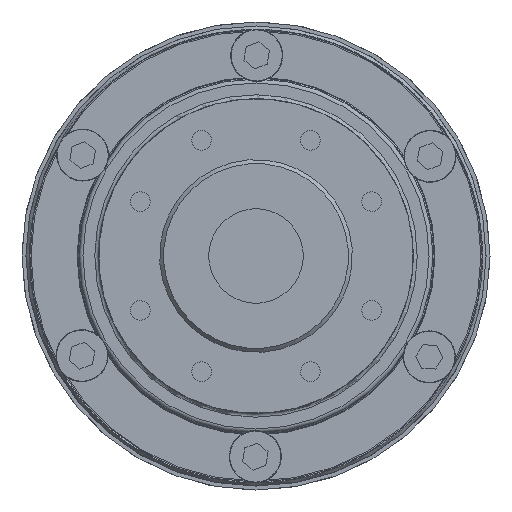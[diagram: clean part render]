
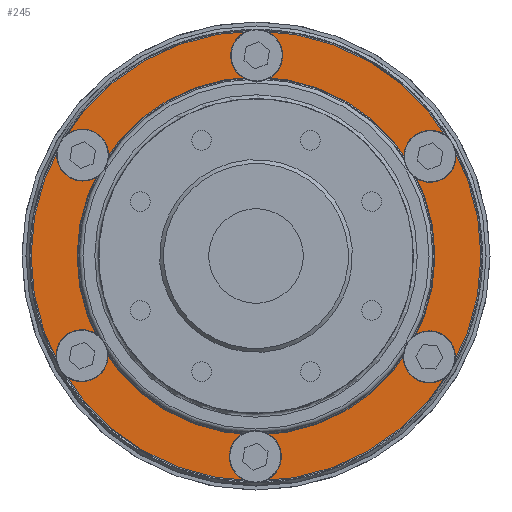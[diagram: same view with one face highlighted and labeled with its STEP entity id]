
A CAD part, left-side view. The second image highlights one B-rep face of the part: STEP entity #245.
In plain terms, the highlighted planar face has unit normal (-1, 0, 0).
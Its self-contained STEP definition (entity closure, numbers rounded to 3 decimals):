
#245 = ADVANCED_FACE( '', ( #424, #425, #426, #427, #428, #429, #430, #431 ), #432, .F. );
#424 = FACE_OUTER_BOUND( '', #643, .T. );
#425 = FACE_BOUND( '', #644, .T. );
#426 = FACE_BOUND( '', #645, .T. );
#427 = FACE_BOUND( '', #646, .T. );
#428 = FACE_BOUND( '', #647, .T. );
#429 = FACE_BOUND( '', #648, .T. );
#430 = FACE_BOUND( '', #649, .T. );
#431 = FACE_BOUND( '', #650, .T. );
#432 = PLANE( '', #651 );
#643 = EDGE_LOOP( '', ( #1304 ) );
#644 = EDGE_LOOP( '', ( #1305 ) );
#645 = EDGE_LOOP( '', ( #1306 ) );
#646 = EDGE_LOOP( '', ( #1307 ) );
#647 = EDGE_LOOP( '', ( #1308 ) );
#648 = EDGE_LOOP( '', ( #1309 ) );
#649 = EDGE_LOOP( '', ( #1310 ) );
#650 = EDGE_LOOP( '', ( #1311 ) );
#651 = AXIS2_PLACEMENT_3D( '', #1312, #1313, #1314 );
#1304 = ORIENTED_EDGE( '', *, *, #2504, .T. );
#1305 = ORIENTED_EDGE( '', *, *, #2489, .T. );
#1306 = ORIENTED_EDGE( '', *, *, #2492, .T. );
#1307 = ORIENTED_EDGE( '', *, *, #2481, .T. );
#1308 = ORIENTED_EDGE( '', *, *, #2478, .T. );
#1309 = ORIENTED_EDGE( '', *, *, #2506, .T. );
#1310 = ORIENTED_EDGE( '', *, *, #2517, .T. );
#1311 = ORIENTED_EDGE( '', *, *, #2512, .T. );
#1312 = CARTESIAN_POINT( '', ( -21., 57.5, 0. ) );
#1313 = DIRECTION( '', ( 1., 0., 0. ) );
#1314 = DIRECTION( '', ( 0., 1., 0. ) );
#2478 = EDGE_CURVE( '', #3663, #3663, #3664, .T. );
#2481 = EDGE_CURVE( '', #3668, #3668, #3669, .T. );
#2489 = EDGE_CURVE( '', #3681, #3681, #3682, .T. );
#2492 = EDGE_CURVE( '', #3686, #3686, #3687, .T. );
#2504 = EDGE_CURVE( '', #3704, #3704, #3705, .T. );
#2506 = EDGE_CURVE( '', #3707, #3707, #3708, .T. );
#2512 = EDGE_CURVE( '', #3715, #3715, #3716, .T. );
#2517 = EDGE_CURVE( '', #3723, #3723, #3724, .T. );
#3663 = VERTEX_POINT( '', #6601 );
#3664 = CIRCLE( '', #6602, 3.324 );
#3668 = VERTEX_POINT( '', #6606 );
#3669 = CIRCLE( '', #6607, 3.324 );
#3681 = VERTEX_POINT( '', #6619 );
#3682 = CIRCLE( '', #6620, 45.3 );
#3686 = VERTEX_POINT( '', #6624 );
#3687 = CIRCLE( '', #6625, 3.324 );
#3704 = VERTEX_POINT( '', #6642 );
#3705 = CIRCLE( '', #6643, 57.2 );
#3707 = VERTEX_POINT( '', #6645 );
#3708 = CIRCLE( '', #6646, 3.324 );
#3715 = VERTEX_POINT( '', #6653 );
#3716 = CIRCLE( '', #6654, 3.324 );
#3723 = VERTEX_POINT( '', #6661 );
#3724 = CIRCLE( '', #6662, 3.324 );
#6601 = CARTESIAN_POINT( '', ( -21., 0., -54.324 ) );
#6602 = AXIS2_PLACEMENT_3D( '', #7463, #7464, #7465 );
#6606 = CARTESIAN_POINT( '', ( -21., 47.046, -27.162 ) );
#6607 = AXIS2_PLACEMENT_3D( '', #7469, #7470, #7471 );
#6619 = CARTESIAN_POINT( '', ( -21., 0., -45.3 ) );
#6620 = AXIS2_PLACEMENT_3D( '', #7484, #7485, #7486 );
#6624 = CARTESIAN_POINT( '', ( -21., 47.046, 27.162 ) );
#6625 = AXIS2_PLACEMENT_3D( '', #7490, #7491, #7492 );
#6642 = CARTESIAN_POINT( '', ( -21., 0., -57.2 ) );
#6643 = AXIS2_PLACEMENT_3D( '', #7508, #7509, #7510 );
#6645 = CARTESIAN_POINT( '', ( -21., -47.046, -27.162 ) );
#6646 = AXIS2_PLACEMENT_3D( '', #7511, #7512, #7513 );
#6653 = CARTESIAN_POINT( '', ( -21., 0., 54.324 ) );
#6654 = AXIS2_PLACEMENT_3D( '', #7517, #7518, #7519 );
#6661 = CARTESIAN_POINT( '', ( -21., -47.046, 27.162 ) );
#6662 = AXIS2_PLACEMENT_3D( '', #7526, #7527, #7528 );
#7463 = CARTESIAN_POINT( '', ( -21., 0., -51. ) );
#7464 = DIRECTION( '', ( 1., 0., 0. ) );
#7465 = DIRECTION( '', ( 0., 0., -1. ) );
#7469 = CARTESIAN_POINT( '', ( -21., 44.167, -25.5 ) );
#7470 = DIRECTION( '', ( 1., 0., 0. ) );
#7471 = DIRECTION( '', ( 0., 0.866, -0.5 ) );
#7484 = CARTESIAN_POINT( '', ( -21., 0., 0. ) );
#7485 = DIRECTION( '', ( 1., 0., 0. ) );
#7486 = DIRECTION( '', ( 0., 0., -1. ) );
#7490 = CARTESIAN_POINT( '', ( -21., 44.167, 25.5 ) );
#7491 = DIRECTION( '', ( 1., 0., 0. ) );
#7492 = DIRECTION( '', ( 0., 0.866, 0.5 ) );
#7508 = CARTESIAN_POINT( '', ( -21., 0., 0. ) );
#7509 = DIRECTION( '', ( -1., 0., 0. ) );
#7510 = DIRECTION( '', ( 0., 0., -1. ) );
#7511 = CARTESIAN_POINT( '', ( -21., -44.167, -25.5 ) );
#7512 = DIRECTION( '', ( 1., 0., 0. ) );
#7513 = DIRECTION( '', ( 0., -0.866, -0.5 ) );
#7517 = CARTESIAN_POINT( '', ( -21., 0., 51. ) );
#7518 = DIRECTION( '', ( 1., 0., 0. ) );
#7519 = DIRECTION( '', ( 0., 0., 1. ) );
#7526 = CARTESIAN_POINT( '', ( -21., -44.167, 25.5 ) );
#7527 = DIRECTION( '', ( 1., 0., 0. ) );
#7528 = DIRECTION( '', ( 0., -0.866, 0.5 ) );
